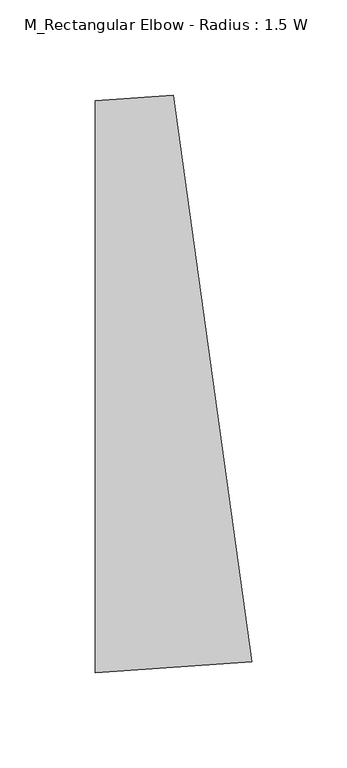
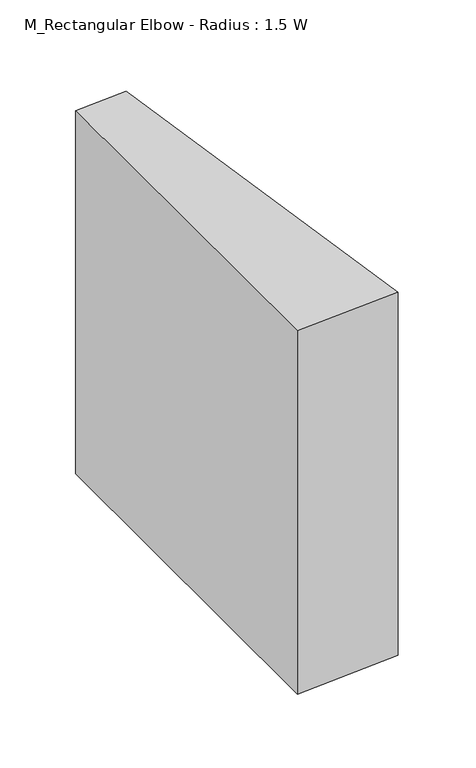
"""IFC4 building model written with IfcOpenShell, lengths in millimetres: duct fitting geometry, M_Rectangular Elbow - Radius : 1.5 W."""

from ifc_helpers import new_model, si_unit, point, frame, frame_2d, origin, place, context, project, spatial, polyline, circle_curve, trimmed, segment, composite_curve, outline, extrude, source, transform, mapped, element, save


def m_rectangular_elbow_radius_1_5_w_a5179163(model_context):
    return source(origin(), model_context, "Body", "SweptSolid", [
        extrude(outline(composite_curve([segment(trimmed(circle_curve(frame_2d((-30.8931506, 450.0)), 600.0), [point((51.1021389, -144.3709048))], [point((-30.8931506, -150.0))], False, "CARTESIAN"), True, "CONTINUOUS"), segment(polyline([(-30.8931506, -150.0), (-30.8931506, 150.0)]), True, "CONTINUOUS"), segment(trimmed(circle_curve(frame_2d((-30.8931506, 450.0)), 300.0), [point((-30.8931506, 150.0))], [point((10.1044941, 152.8145476))], True, "CARTESIAN"), True, "CONTINUOUS"), segment(polyline([(10.1044941, 152.8145476), (51.1021389, -144.3709048)]), True, "CONTINUOUS")], self_intersect=False)), frame((0.0, 0.0, -150.0), z_axis=(0.0, 0.0, 1.0), x_axis=(1.0, 0.0, 0.0)), (0.0, 0.0, 1.0), 300.0),
        extrude(outline(composite_curve([segment(trimmed(circle_curve(frame_2d((-30.8931506, 450.0)), 600.0), [point((51.1021389, -144.3709048))], [point((-30.8931506, -150.0))], False, "CARTESIAN"), True, "CONTINUOUS"), segment(polyline([(-30.8931506, -150.0), (-30.8931506, 150.0)]), True, "CONTINUOUS"), segment(trimmed(circle_curve(frame_2d((-30.8931506, 450.0)), 300.0), [point((-30.8931506, 150.0))], [point((10.1044941, 152.8145476))], True, "CARTESIAN"), True, "CONTINUOUS"), segment(polyline([(10.1044941, 152.8145476), (51.1021389, -144.3709048)]), True, "CONTINUOUS")], self_intersect=False)), frame((0.0, 0.0, -150.0), z_axis=(0.0, 0.0, 1.0), x_axis=(1.0, 0.0, 0.0)), (0.0, 0.0, 1.0), 300.0),
        extrude(outline(composite_curve([segment(trimmed(circle_curve(frame_2d((-30.8931506, 450.0)), 600.0), [point((51.1021389, -144.3709048))], [point((-30.8931506, -150.0))], False, "CARTESIAN"), True, "CONTINUOUS"), segment(polyline([(-30.8931506, -150.0), (-30.8931506, 150.0)]), True, "CONTINUOUS"), segment(trimmed(circle_curve(frame_2d((-30.8931506, 450.0)), 300.0), [point((-30.8931506, 150.0))], [point((10.1044941, 152.8145476))], True, "CARTESIAN"), True, "CONTINUOUS"), segment(polyline([(10.1044941, 152.8145476), (51.1021389, -144.3709048)]), True, "CONTINUOUS")], self_intersect=False)), frame((0.0, 0.0, -150.0), z_axis=(0.0, 0.0, 1.0), x_axis=(1.0, 0.0, 0.0)), (0.0, 0.0, 1.0), 300.0),
    ])


if __name__ == "__main__":
    model = new_model("IFC4")
    model_context = context("Model", 3, world=origin())
    ifc_project = project(units=[si_unit("LENGTHUNIT", "METRE", prefix="MILLI")], contexts=[model_context])
    site = spatial("IfcSite", under=ifc_project)
    building = spatial("IfcBuilding", under=site)
    placement = place(None, origin())
    m_rectangular_elbow_radius_1_5_w_shape = m_rectangular_elbow_radius_1_5_w_a5179163(model_context)
    element("IfcDuctFitting", 1, ObjectType="M_Rectangular Elbow - Radius : 1.5 W", at=placement, inside=building, context=model_context, shape_type="MappedRepresentation", body=[
        mapped(m_rectangular_elbow_radius_1_5_w_shape, transform((0.0, 0.0, 0.0), x_axis=(1.0, 0.0, 0.0), y_axis=(0.0, 1.0, 0.0), z_axis=(0.0, 0.0, 1.0))),
    ])
    save(model, "model.ifc")
